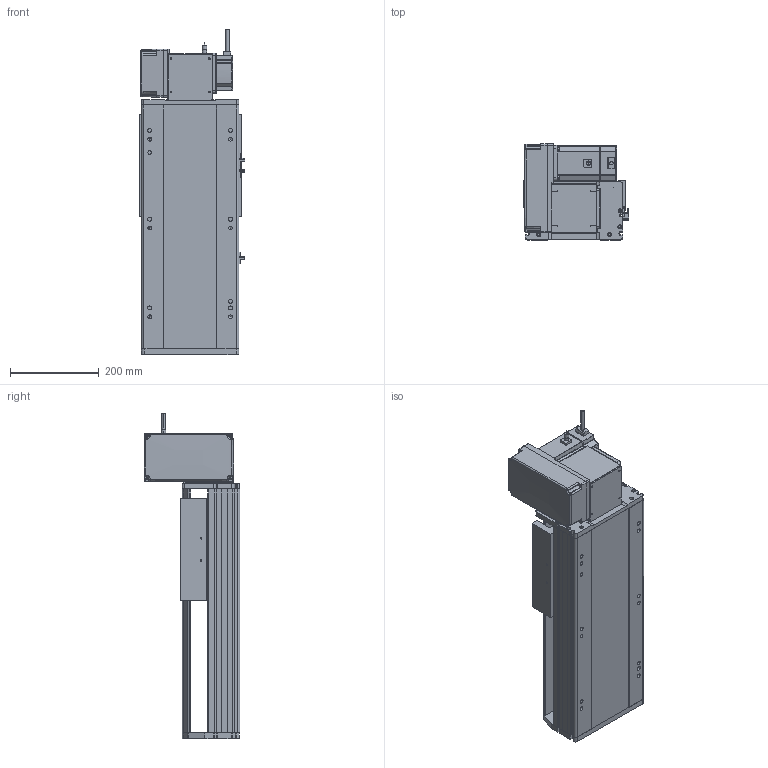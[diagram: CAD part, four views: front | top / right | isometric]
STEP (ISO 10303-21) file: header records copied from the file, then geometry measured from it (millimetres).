
FILE_DESCRIPTION (( 'STEP AP214' ), '1' );
FILE_NAME ('RTB22S-XX-200-LW-M75-C4.STEP', '2025-12-12T05:50:21', ( '' ), ( '' ), 'SwSTEP 2.0', 'SolidWorks 2018', '' );
FILE_SCHEMA (( 'AUTOMOTIVE_DESIGN' ));
Length unit declared in the file: millimetre
Products named in the file (14): 750W萇儂^RTB22S-XX-XX-LW-M75-C4; RTB22S-GY-001耜裔^RTB22S-XX-XX-LW-M75-C4; RTB22S-GY-007奻裔^RTB22S-XX-XX-LW-M75-C4; RTB22S-LW-々湍釱蚾饜^RTB22S-XX-XX-LW-M75-C4; RTB22S-GY-005P^RTB22S-LW-々湍釱蚾饜_RTB22S-XX-XX-LW-M75-C4; RTH22-GY-013外置感应片^RTB22S-XX-XX-LW-M75-C4; RTB22S-XX-200-LW-M75-C4; RTB22S-L-004賑釱^RTB22S-XX-XX-LW-M75-C4; OMRON EE-SX672 传感器^RTB22S-XX-XX-LW-M75-C4; RTB22S-GY-014--々湍釱^RTB22S-LW-々湍釱蚾饜_RTB22S-XX-XX-LW-M75-C4; RTB22S-GY-018P^RTB22S-LW-々湍釱蚾饜_RTB22S-XX-XX-LW-M75-C4; RTB22S-GY-017P^RTB22S-LW-々湍釱蚾饜_RTB22S-XX-XX-LW-M75-C4; RTB22S-L-011菁釱^RTB22S-XX-XX-LW-M75-C4; RTB22S-GY-008-M75--萇儂啣^RTB22S-LW-々湍釱蚾饜_RTB22S-XX-XX-LW-M75-C4
Assembly tree (16 placements, depth 3):
  RTB22S-XX-200-LW-M75-C4
    RTB22S-L-011菁釱^RTB22S-XX-XX-LW-M75-C4
    RTB22S-GY-001耜裔^RTB22S-XX-XX-LW-M75-C4
    750W萇儂^RTB22S-XX-XX-LW-M75-C4
    RTB22S-GY-007奻裔^RTB22S-XX-XX-LW-M75-C4
    RTB22S-L-004賑釱^RTB22S-XX-XX-LW-M75-C4
    RTH22-GY-013外置感应片^RTB22S-XX-XX-LW-M75-C4
    OMRON EE-SX672 传感器^RTB22S-XX-XX-LW-M75-C4  x3
    RTB22S-LW-々湍釱蚾饜^RTB22S-XX-XX-LW-M75-C4
      RTB22S-GY-014--々湍釱^RTB22S-LW-々湍釱蚾饜_RTB22S-XX-XX-LW-M75-C4
      RTB22S-GY-017P^RTB22S-LW-々湍釱蚾饜_RTB22S-XX-XX-LW-M75-C4  x2
      RTB22S-GY-005P^RTB22S-LW-々湍釱蚾饜_RTB22S-XX-XX-LW-M75-C4
      RTB22S-GY-008-M75--萇儂啣^RTB22S-LW-々湍釱蚾饜_RTB22S-XX-XX-LW-M75-C4
      RTB22S-GY-018P^RTB22S-LW-々湍釱蚾饜_RTB22S-XX-XX-LW-M75-C4
Bounding box: 238.5 x 215.5 x 732.2 mm (x, y, z)
Volume: 11973250.5 mm3; surface area: 1283068.1 mm2
Topology: 15 solids, 15 shells, 1893 faces, 5136 edges, 3302 vertices
Faces by surface type: plane 905, cylinder 562, bspline 296, cone 118, sphere 8, torus 4
Entity records: 49478 total; most frequent: CARTESIAN_POINT 14432, ORIENTED_EDGE 7100, DIRECTION 6744, EDGE_CURVE 3550, AXIS2_PLACEMENT_3D 2346, VERTEX_POINT 2306, LINE 2052, VECTOR 2052
